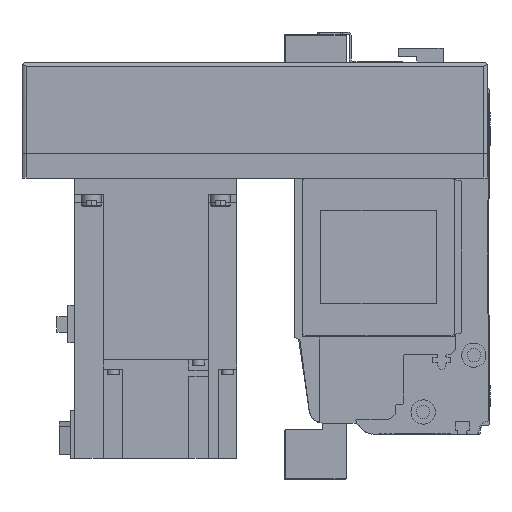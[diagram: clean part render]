
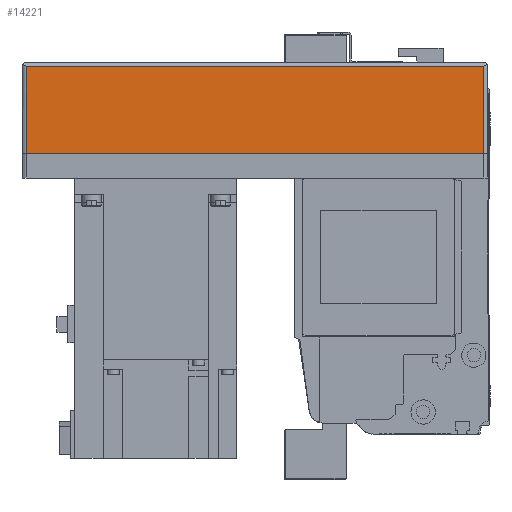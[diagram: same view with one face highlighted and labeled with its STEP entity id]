
A CAD part, left-side view. The second image highlights one B-rep face of the part: STEP entity #14221.
In plain terms, the highlighted planar face has unit normal (-1, 0, 0) as drawn and (0, 1, 0) by its records, which use the part's own axes.
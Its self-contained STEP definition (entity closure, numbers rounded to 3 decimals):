
#2562=ORIENTED_EDGE('',*,*,#5890,.F.);
#2563=ORIENTED_EDGE('',*,*,#5830,.T.);
#2564=ORIENTED_EDGE('',*,*,#5891,.F.);
#2565=ORIENTED_EDGE('',*,*,#5825,.F.);
#5825=EDGE_CURVE('',#7638,#7639,#9126,.T.);
#5830=EDGE_CURVE('',#7644,#7643,#9128,.T.);
#5890=EDGE_CURVE('',#7644,#7638,#9171,.T.);
#5891=EDGE_CURVE('',#7639,#7643,#9172,.T.);
#7638=VERTEX_POINT('',#22306);
#7639=VERTEX_POINT('',#22308);
#7643=VERTEX_POINT('',#22317);
#7644=VERTEX_POINT('',#22319);
#9126=LINE('',#22307,#10439);
#9128=LINE('',#22318,#10441);
#9171=LINE('',#22441,#10484);
#9172=LINE('',#22442,#10485);
#10439=VECTOR('',#17799,1000.);
#10441=VECTOR('',#17809,1000.);
#10484=VECTOR('',#17930,1000.);
#10485=VECTOR('',#17931,1000.);
#11592=EDGE_LOOP('',(#2562,#2563,#2564,#2565));
#12691=FACE_BOUND('',#11592,.T.);
#13622=PLANE('',#15290);
#14221=ADVANCED_FACE('',(#12691),#13622,.T.);
#15290=AXIS2_PLACEMENT_3D('',#22440,#17928,#17929);
#17799=DIRECTION('',(0.,0.,1.));
#17809=DIRECTION('',(0.,0.,1.));
#17928=DIRECTION('',(0.,1.,0.));
#17929=DIRECTION('',(0.,0.,1.));
#17930=DIRECTION('',(1.,0.,0.));
#17931=DIRECTION('',(-1.,0.,0.));
#22306=CARTESIAN_POINT('',(-2.,54.,-55.));
#22307=CARTESIAN_POINT('',(-2.,54.,-57.));
#22308=CARTESIAN_POINT('',(-2.,54.,-12.));
#22317=CARTESIAN_POINT('',(-228.,54.,-12.));
#22318=CARTESIAN_POINT('',(-228.,54.,-57.));
#22319=CARTESIAN_POINT('',(-228.,54.,-55.));
#22440=CARTESIAN_POINT('',(-2.,54.,-57.));
#22441=CARTESIAN_POINT('',(-230.,54.,-55.));
#22442=CARTESIAN_POINT('',(-2.,54.,-12.));
